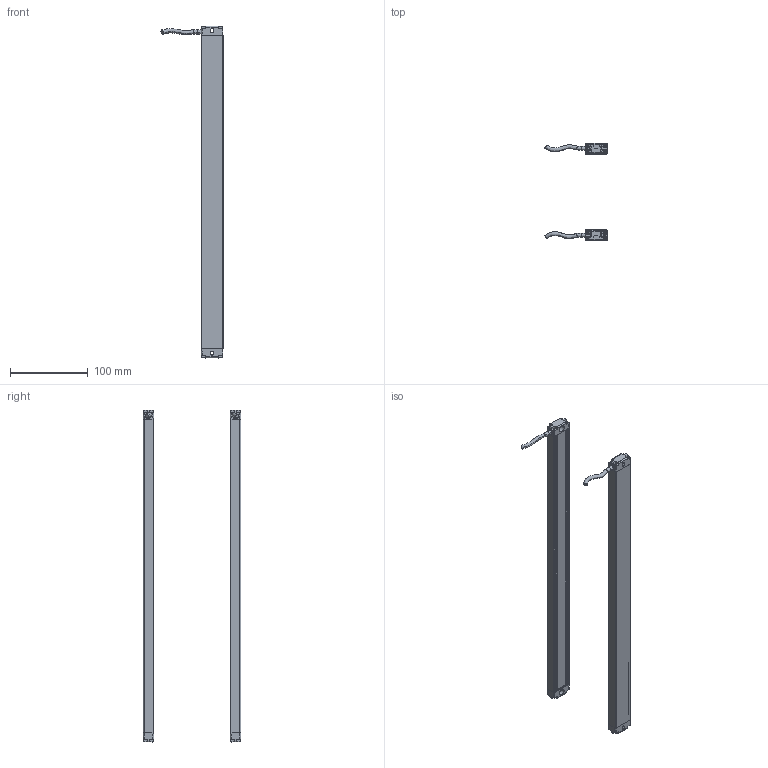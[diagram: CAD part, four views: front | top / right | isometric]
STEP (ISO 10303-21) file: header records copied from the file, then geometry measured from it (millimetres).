
FILE_DESCRIPTION(/* description */ (''),/* implementation_level */ '2;1');
FILE_NAME(/* name */ '7205（13x28w) .stp',/* time_stamp */ '2023-10-23T15:49:21+08:00',/* author */ (''),/* organization */ (''),/* preprocessor_version */ 'ST-DEVELOPER v16.7',/* originating_system */ 'SIEMENS PLM Software NX 12.0',/* authorisation */ '');
FILE_SCHEMA (('AP203_CONFIGURATION_CONTROLLED_3D_DESIGN_OF_MECHANICAL_PARTS_AND_ASSEMBLIES_MIM_LF { 1 0 10303 403 2 1 2}'));
Length unit declared in the file: millimetre
Products named in the file (1): 0805（13x28w_ _stp
Bounding box: 79.6 x 125.02 x 426 mm (x, y, z)
Volume: 126116.4 mm3; surface area: 167033.1 mm2
Topology: 10 solids, 10 shells, 760 faces, 2126 edges, 1395 vertices
Faces by surface type: plane 356, cylinder 312, torus 52, bspline 40
Entity records: 28268 total; most frequent: CARTESIAN_POINT 8859, ORIENTED_EDGE 4252, DIRECTION 3737, EDGE_CURVE 2126, VERTEX_POINT 1395, AXIS2_PLACEMENT_3D 1261, LINE 1215, VECTOR 1215
